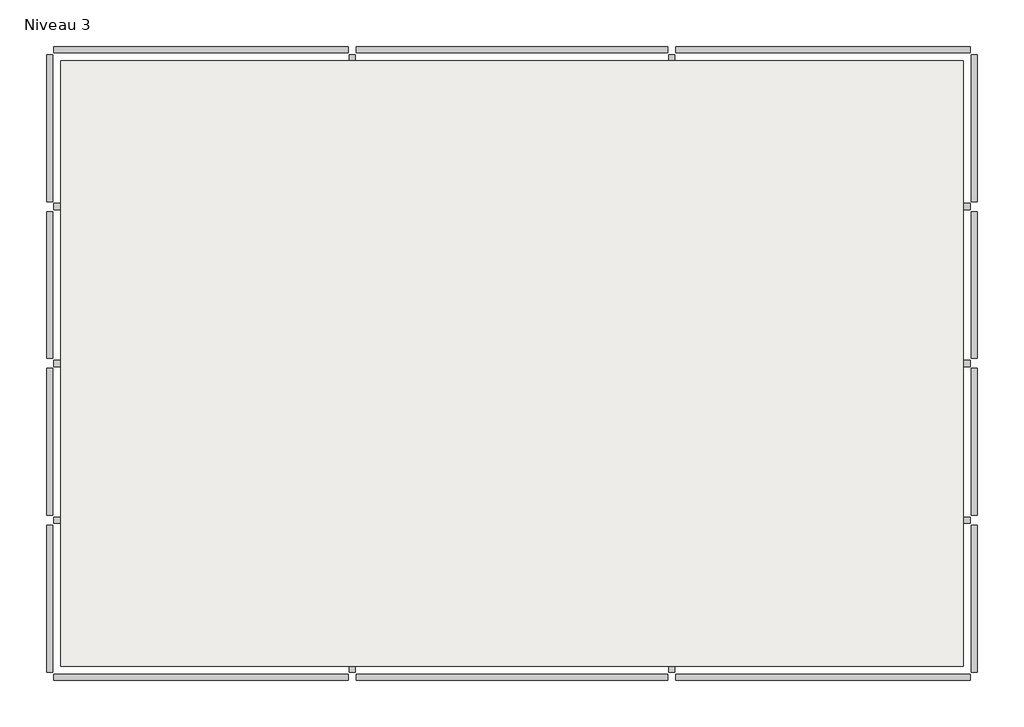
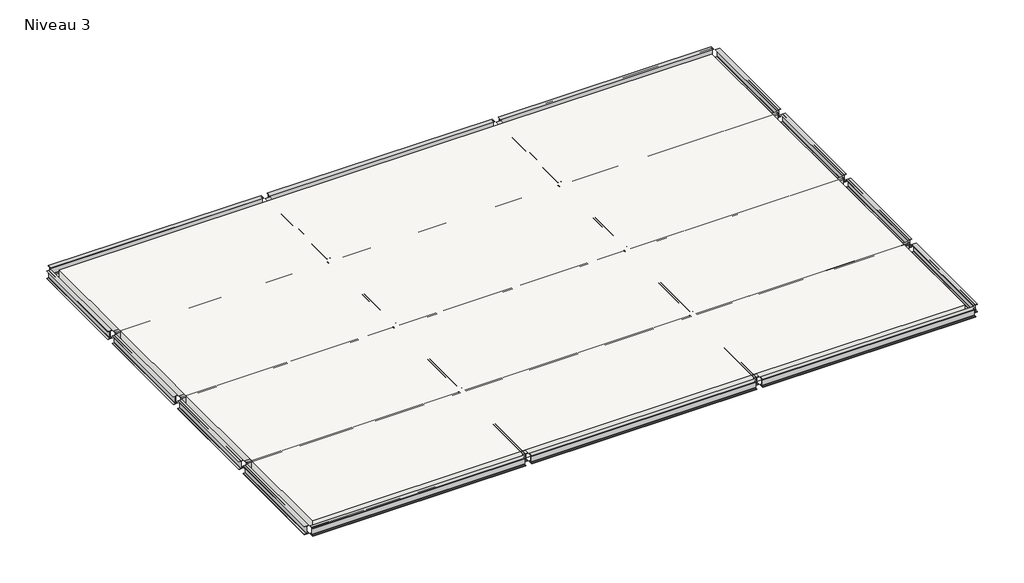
# One storey: 31 beams, 1 slab.
"""IFC4 building model written with IfcOpenShell, lengths in millimetres."""

from ifc_helpers import new_model, si_unit, frame, origin, place, context, project, spatial, polyline, outline, extrude, transform, mapped, element, save
from components import w_wide_flange_w12x26_fd16299b, w_wide_flange_w12x26_ebb6aad1, w_wide_flange_w12x26_57604207

model = new_model("IFC4")

# Units and contexts
model_context = context("Model", 3, world=origin())
ifc_project = project(units=[si_unit("LENGTHUNIT", "METRE", prefix="MILLI")], contexts=[model_context])

# Site, building, storey
site = spatial("IfcSite", under=ifc_project)
building = spatial("IfcBuilding", under=site)
storey = spatial("IfcBuildingStorey", under=building, Name="Niveau 3", Elevation=6096.0)

# Beams
placement = place(None, origin())
w_wide_flange_w12x26_shape = w_wide_flange_w12x26_fd16299b(model_context)
element("IfcBeam", 1, ObjectType="W-Wide Flange : W12X26", at=placement, inside=storey, context=model_context, shape_type="MappedRepresentation", body=[
    mapped(w_wide_flange_w12x26_shape, transform((3119.9519861, 12392.6762973, 5940.425), x_axis=(-1.0, 0.0, 0.0), y_axis=(0.0, -1.0, 0.0), z_axis=(0.0, 0.0, 1.0))),
])
element("IfcBeam", 2, ObjectType="W-Wide Flange : W12X26", at=placement, inside=storey, context=model_context, shape_type="MappedRepresentation", body=[
    mapped(w_wide_flange_w12x26_shape, transform((-13796.4480139, 12392.6762973, 5940.425), x_axis=(-1.0, 0.0, 0.0), y_axis=(0.0, -1.0, 0.0), z_axis=(0.0, 0.0, 1.0))),
])
element("IfcBeam", 3, ObjectType="W-Wide Flange : W12X26", at=placement, inside=storey, context=model_context, shape_type="MappedRepresentation", body=[
    mapped(w_wide_flange_w12x26_shape, transform((3119.9519861, 8125.4762973, 5940.425), x_axis=(-1.0, 0.0, 0.0), y_axis=(0.0, -1.0, 0.0), z_axis=(0.0, 0.0, 1.0))),
])
element("IfcBeam", 4, ObjectType="W-Wide Flange : W12X26", at=placement, inside=storey, context=model_context, shape_type="MappedRepresentation", body=[
    mapped(w_wide_flange_w12x26_shape, transform((-13796.4480139, 8125.4762973, 5940.425), x_axis=(-1.0, 0.0, 0.0), y_axis=(0.0, -1.0, 0.0), z_axis=(0.0, 0.0, 1.0))),
])
element("IfcBeam", 5, ObjectType="W-Wide Flange : W12X26", at=placement, inside=storey, context=model_context, shape_type="MappedRepresentation", body=[
    mapped(w_wide_flange_w12x26_shape, transform((3119.9519861, 3858.2762973, 5940.425), x_axis=(-1.0, 0.0, 0.0), y_axis=(0.0, -1.0, 0.0), z_axis=(0.0, 0.0, 1.0))),
])
element("IfcBeam", 6, ObjectType="W-Wide Flange : W12X26", at=placement, inside=storey, context=model_context, shape_type="MappedRepresentation", body=[
    mapped(w_wide_flange_w12x26_shape, transform((-13796.4480139, 3858.2762973, 5940.425), x_axis=(-1.0, 0.0, 0.0), y_axis=(0.0, -1.0, 0.0), z_axis=(0.0, 0.0, 1.0))),
])
element("IfcBeam", 7, ObjectType="W-Wide Flange : W12X26", at=placement, inside=storey, context=model_context, shape_type="MappedRepresentation", body=[
    mapped(w_wide_flange_w12x26_shape, transform((3119.9519861, -408.9237027, 5940.425), x_axis=(-1.0, 0.0, 0.0), y_axis=(0.0, -1.0, 0.0), z_axis=(0.0, 0.0, 1.0))),
])
element("IfcBeam", 8, ObjectType="W-Wide Flange : W12X26", at=placement, inside=storey, context=model_context, shape_type="MappedRepresentation", body=[
    mapped(w_wide_flange_w12x26_shape, transform((-13796.4480139, -408.9237027, 5940.425), x_axis=(-1.0, 0.0, 0.0), y_axis=(0.0, -1.0, 0.0), z_axis=(0.0, 0.0, 1.0))),
])
element("IfcBeam", 9, ObjectType="W-Wide Flange : W12X26", at=placement, inside=storey, context=model_context, shape_type="MappedRepresentation", body=[
    mapped(w_wide_flange_w12x26_shape, transform((3119.9519861, -4676.1237027, 5940.425), x_axis=(-1.0, 0.0, 0.0), y_axis=(0.0, -1.0, 0.0), z_axis=(0.0, 0.0, 1.0))),
])
element("IfcBeam", 10, ObjectType="W-Wide Flange : W12X26", at=placement, inside=storey, context=model_context, shape_type="MappedRepresentation", body=[
    mapped(w_wide_flange_w12x26_shape, transform((-13796.4480139, -4676.1237027, 5940.425), x_axis=(-1.0, 0.0, 0.0), y_axis=(0.0, -1.0, 0.0), z_axis=(0.0, 0.0, 1.0))),
])
w_wide_flange_w12x26_2_shape = w_wide_flange_w12x26_ebb6aad1(model_context)
element("IfcBeam", 11, ObjectType="W-Wide Flange : W12X26", at=placement, inside=storey, context=model_context, shape_type="MappedRepresentation", body=[
    mapped(w_wide_flange_w12x26_2_shape, transform((-5338.2480139, 12392.6762973, 5940.425), x_axis=(-1.0, 0.0, 0.0), y_axis=(0.0, -1.0, 0.0), z_axis=(0.0, 0.0, 1.0))),
])
element("IfcBeam", 12, ObjectType="W-Wide Flange : W12X26", at=placement, inside=storey, context=model_context, shape_type="MappedRepresentation", body=[
    mapped(w_wide_flange_w12x26_2_shape, transform((-5338.2480139, 8125.4762973, 5940.425), x_axis=(-1.0, 0.0, 0.0), y_axis=(0.0, -1.0, 0.0), z_axis=(0.0, 0.0, 1.0))),
])
element("IfcBeam", 13, ObjectType="W-Wide Flange : W12X26", at=placement, inside=storey, context=model_context, shape_type="MappedRepresentation", body=[
    mapped(w_wide_flange_w12x26_2_shape, transform((-5338.2480139, 3858.2762973, 5940.425), x_axis=(-1.0, 0.0, 0.0), y_axis=(0.0, -1.0, 0.0), z_axis=(0.0, 0.0, 1.0))),
])
element("IfcBeam", 14, ObjectType="W-Wide Flange : W12X26", at=placement, inside=storey, context=model_context, shape_type="MappedRepresentation", body=[
    mapped(w_wide_flange_w12x26_2_shape, transform((-5338.2480139, -408.9237027, 5940.425), x_axis=(-1.0, 0.0, 0.0), y_axis=(0.0, -1.0, 0.0), z_axis=(0.0, 0.0, 1.0))),
])
element("IfcBeam", 15, ObjectType="W-Wide Flange : W12X26", at=placement, inside=storey, context=model_context, shape_type="MappedRepresentation", body=[
    mapped(w_wide_flange_w12x26_2_shape, transform((-5338.2480139, -4676.1237027, 5940.425), x_axis=(-1.0, 0.0, 0.0), y_axis=(0.0, -1.0, 0.0), z_axis=(0.0, 0.0, 1.0))),
])
w_wide_flange_w12x26_3_shape = w_wide_flange_w12x26_57604207(model_context)
element("IfcBeam", 16, ObjectType="W-Wide Flange : W12X26", at=placement, inside=storey, context=model_context, shape_type="MappedRepresentation", body=[
    mapped(w_wide_flange_w12x26_3_shape, transform((-17911.2480139, -2542.5237027, 5940.425), x_axis=(0.0, 1.0, 0.0), y_axis=(-1.0, 0.0, 0.0), z_axis=(0.0, 0.0, 1.0))),
])
element("IfcBeam", 17, ObjectType="W-Wide Flange : W12X26", at=placement, inside=storey, context=model_context, shape_type="MappedRepresentation", body=[
    mapped(w_wide_flange_w12x26_3_shape, transform((-17911.2480139, 1724.6762973, 5940.425), x_axis=(0.0, 1.0, 0.0), y_axis=(-1.0, 0.0, 0.0), z_axis=(0.0, 0.0, 1.0))),
])
element("IfcBeam", 18, ObjectType="W-Wide Flange : W12X26", at=placement, inside=storey, context=model_context, shape_type="MappedRepresentation", body=[
    mapped(w_wide_flange_w12x26_3_shape, transform((-17911.2480139, 5991.8762973, 5940.425), x_axis=(0.0, 1.0, 0.0), y_axis=(-1.0, 0.0, 0.0), z_axis=(0.0, 0.0, 1.0))),
])
element("IfcBeam", 19, ObjectType="W-Wide Flange : W12X26", at=placement, inside=storey, context=model_context, shape_type="MappedRepresentation", body=[
    mapped(w_wide_flange_w12x26_3_shape, transform((-17911.2480139, 10259.0762973, 5940.425), x_axis=(0.0, 1.0, 0.0), y_axis=(-1.0, 0.0, 0.0), z_axis=(0.0, 0.0, 1.0))),
])
element("IfcBeam", 20, ObjectType="W-Wide Flange : W12X26", at=placement, inside=storey, context=model_context, shape_type="MappedRepresentation", body=[
    mapped(w_wide_flange_w12x26_3_shape, transform((-9681.6480139, -2542.5237027, 5940.425), x_axis=(0.0, 1.0, 0.0), y_axis=(-1.0, 0.0, 0.0), z_axis=(0.0, 0.0, 1.0))),
])
element("IfcBeam", 21, ObjectType="W-Wide Flange : W12X26", at=placement, inside=storey, context=model_context, shape_type="MappedRepresentation", body=[
    mapped(w_wide_flange_w12x26_3_shape, transform((-9681.6480139, 1724.6762973, 5940.425), x_axis=(0.0, 1.0, 0.0), y_axis=(-1.0, 0.0, 0.0), z_axis=(0.0, 0.0, 1.0))),
])
element("IfcBeam", 22, ObjectType="W-Wide Flange : W12X26", at=placement, inside=storey, context=model_context, shape_type="MappedRepresentation", body=[
    mapped(w_wide_flange_w12x26_3_shape, transform((-9681.6480139, 5991.8762973, 5940.425), x_axis=(0.0, 1.0, 0.0), y_axis=(-1.0, 0.0, 0.0), z_axis=(0.0, 0.0, 1.0))),
])
element("IfcBeam", 23, ObjectType="W-Wide Flange : W12X26", at=placement, inside=storey, context=model_context, shape_type="MappedRepresentation", body=[
    mapped(w_wide_flange_w12x26_3_shape, transform((-9681.6480139, 10259.0762973, 5940.425), x_axis=(0.0, 1.0, 0.0), y_axis=(-1.0, 0.0, 0.0), z_axis=(0.0, 0.0, 1.0))),
])
element("IfcBeam", 24, ObjectType="W-Wide Flange : W12X26", at=placement, inside=storey, context=model_context, shape_type="MappedRepresentation", body=[
    mapped(w_wide_flange_w12x26_3_shape, transform((-994.8480139, -2542.5237027, 5940.425), x_axis=(0.0, 1.0, 0.0), y_axis=(-1.0, 0.0, 0.0), z_axis=(0.0, 0.0, 1.0))),
])
element("IfcBeam", 25, ObjectType="W-Wide Flange : W12X26", at=placement, inside=storey, context=model_context, shape_type="MappedRepresentation", body=[
    mapped(w_wide_flange_w12x26_3_shape, transform((-994.8480139, 1724.6762973, 5940.425), x_axis=(0.0, 1.0, 0.0), y_axis=(-1.0, 0.0, 0.0), z_axis=(0.0, 0.0, 1.0))),
])
element("IfcBeam", 26, ObjectType="W-Wide Flange : W12X26", at=placement, inside=storey, context=model_context, shape_type="MappedRepresentation", body=[
    mapped(w_wide_flange_w12x26_3_shape, transform((-994.8480139, 5991.8762973, 5940.425), x_axis=(0.0, 1.0, 0.0), y_axis=(-1.0, 0.0, 0.0), z_axis=(0.0, 0.0, 1.0))),
])
element("IfcBeam", 27, ObjectType="W-Wide Flange : W12X26", at=placement, inside=storey, context=model_context, shape_type="MappedRepresentation", body=[
    mapped(w_wide_flange_w12x26_3_shape, transform((-994.8480139, 10259.0762973, 5940.425), x_axis=(0.0, 1.0, 0.0), y_axis=(-1.0, 0.0, 0.0), z_axis=(0.0, 0.0, 1.0))),
])
element("IfcBeam", 28, ObjectType="W-Wide Flange : W12X26", at=placement, inside=storey, context=model_context, shape_type="MappedRepresentation", body=[
    mapped(w_wide_flange_w12x26_3_shape, transform((7234.7519861, -2542.5237027, 5940.425), x_axis=(0.0, 1.0, 0.0), y_axis=(-1.0, 0.0, 0.0), z_axis=(0.0, 0.0, 1.0))),
])
element("IfcBeam", 29, ObjectType="W-Wide Flange : W12X26", at=placement, inside=storey, context=model_context, shape_type="MappedRepresentation", body=[
    mapped(w_wide_flange_w12x26_3_shape, transform((7234.7519861, 1724.6762973, 5940.425), x_axis=(0.0, 1.0, 0.0), y_axis=(-1.0, 0.0, 0.0), z_axis=(0.0, 0.0, 1.0))),
])
element("IfcBeam", 30, ObjectType="W-Wide Flange : W12X26", at=placement, inside=storey, context=model_context, shape_type="MappedRepresentation", body=[
    mapped(w_wide_flange_w12x26_3_shape, transform((7234.7519861, 5991.8762973, 5940.425), x_axis=(0.0, 1.0, 0.0), y_axis=(-1.0, 0.0, 0.0), z_axis=(0.0, 0.0, 1.0))),
])
element("IfcBeam", 31, ObjectType="W-Wide Flange : W12X26", at=placement, inside=storey, context=model_context, shape_type="MappedRepresentation", body=[
    mapped(w_wide_flange_w12x26_3_shape, transform((7234.7519861, 10259.0762973, 5940.425), x_axis=(0.0, 1.0, 0.0), y_axis=(-1.0, 0.0, 0.0), z_axis=(0.0, 0.0, 1.0))),
])

# Slab
element("IfcSlab", 32, ObjectType="Generic - 12\"", at=placement, inside=storey, context=model_context, shape_type="SweptSolid", body=[
    extrude(outline(polyline([(-17606.4480139, 12087.8762973), (-9681.6480139, 12087.8762973), (-994.8480139, 12087.8762973), (6929.9519861, 12087.8762973), (6929.9519861, 8125.4762973), (6929.9519861, 3858.2762973), (6929.9519861, -408.9237027), (6929.9519861, -4371.3237027), (-994.8480139, -4371.3237027), (-9681.6480139, -4371.3237027), (-17606.4480139, -4371.3237027), (-17606.4480139, -408.9237027), (-17606.4480139, 3858.2762973), (-17606.4480139, 8125.4762973), (-17606.4480139, 12087.8762973)])), frame((0.0, 0.0, 5791.2), z_axis=(0.0, 0.0, 1.0), x_axis=(1.0, 0.0, 0.0)), (0.0, 0.0, 1.0), 304.8),
])

save(model, "model.ifc")
